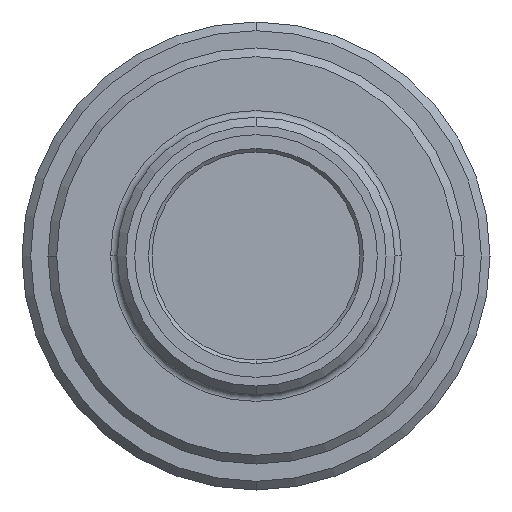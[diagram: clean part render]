
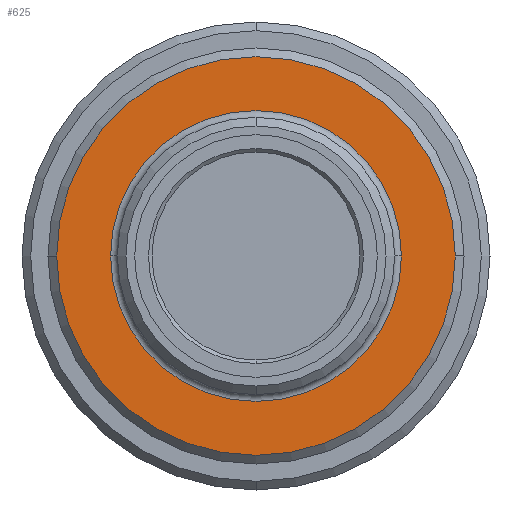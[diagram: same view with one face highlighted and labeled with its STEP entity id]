
A CAD part, front view. The second image highlights one B-rep face of the part: STEP entity #625.
In plain terms, the highlighted planar face has unit normal (0, -1, 0).
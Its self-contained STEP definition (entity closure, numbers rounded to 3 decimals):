
#26 = CARTESIAN_POINT ( 'NONE',  ( 0., -6.5, 0. ) ) ;
#110 = VERTEX_POINT ( 'NONE', #371 ) ;
#157 = VERTEX_POINT ( 'NONE', #543 ) ;
#213 = AXIS2_PLACEMENT_3D ( 'NONE', #26, #1071, #346 ) ;
#286 = DIRECTION ( 'NONE',  ( 0., 0., -1. ) ) ;
#346 = DIRECTION ( 'NONE',  ( -1., 0., 0. ) ) ;
#371 = CARTESIAN_POINT ( 'NONE',  ( 5.75, -6.5, 0. ) ) ;
#414 = AXIS2_PLACEMENT_3D ( 'NONE', #1269, #1468, #1001 ) ;
#491 = DIRECTION ( 'NONE',  ( 0., 1., 0. ) ) ;
#543 = CARTESIAN_POINT ( 'NONE',  ( -4.195, -6.5, 0. ) ) ;
#569 = FACE_BOUND ( 'NONE', #1780, .T. ) ;
#625 = ADVANCED_FACE ( 'NONE', ( #569, #1789 ), #1604, .T. ) ;
#635 = CIRCLE ( 'NONE', #1909, 5.75 ) ;
#637 = AXIS2_PLACEMENT_3D ( 'NONE', #1457, #1443, #286 ) ;
#675 = DIRECTION ( 'NONE',  ( 0., 1., 0. ) ) ;
#908 = CIRCLE ( 'NONE', #1605, 5.75 ) ;
#1001 = DIRECTION ( 'NONE',  ( -1., 0., 0. ) ) ;
#1051 = ORIENTED_EDGE ( 'NONE', *, *, #1692, .F. ) ;
#1071 = DIRECTION ( 'NONE',  ( 0., 1., 0. ) ) ;
#1109 = CIRCLE ( 'NONE', #414, 4.195 ) ;
#1151 = CIRCLE ( 'NONE', #213, 4.195 ) ;
#1234 = EDGE_CURVE ( 'NONE', #1285, #157, #1109, .T. ) ;
#1239 = VERTEX_POINT ( 'NONE', #1290 ) ;
#1269 = CARTESIAN_POINT ( 'NONE',  ( 0., -6.5, 0. ) ) ;
#1275 = ORIENTED_EDGE ( 'NONE', *, *, #1482, .F. ) ;
#1285 = VERTEX_POINT ( 'NONE', #1461 ) ;
#1290 = CARTESIAN_POINT ( 'NONE',  ( -5.75, -6.5, 0. ) ) ;
#1354 = EDGE_LOOP ( 'NONE', ( #1051, #1275 ) ) ;
#1368 = CARTESIAN_POINT ( 'NONE',  ( 0., -6.5, 0. ) ) ;
#1443 = DIRECTION ( 'NONE',  ( 0., -1., 0. ) ) ;
#1457 = CARTESIAN_POINT ( 'NONE',  ( 0., -6.5, 4.973 ) ) ;
#1461 = CARTESIAN_POINT ( 'NONE',  ( 4.195, -6.5, 0. ) ) ;
#1468 = DIRECTION ( 'NONE',  ( 0., 1., 0. ) ) ;
#1482 = EDGE_CURVE ( 'NONE', #110, #1239, #908, .T. ) ;
#1498 = ORIENTED_EDGE ( 'NONE', *, *, #1234, .T. ) ;
#1521 = DIRECTION ( 'NONE',  ( -1., 0., 0. ) ) ;
#1562 = CARTESIAN_POINT ( 'NONE',  ( 0., -6.5, 0. ) ) ;
#1604 = PLANE ( 'NONE',  #637 ) ;
#1605 = AXIS2_PLACEMENT_3D ( 'NONE', #1368, #491, #1521 ) ;
#1692 = EDGE_CURVE ( 'NONE', #1239, #110, #635, .T. ) ;
#1721 = DIRECTION ( 'NONE',  ( -1., 0., 0. ) ) ;
#1776 = ORIENTED_EDGE ( 'NONE', *, *, #1888, .T. ) ;
#1780 = EDGE_LOOP ( 'NONE', ( #1776, #1498 ) ) ;
#1789 = FACE_OUTER_BOUND ( 'NONE', #1354, .T. ) ;
#1888 = EDGE_CURVE ( 'NONE', #157, #1285, #1151, .T. ) ;
#1909 = AXIS2_PLACEMENT_3D ( 'NONE', #1562, #675, #1721 ) ;
